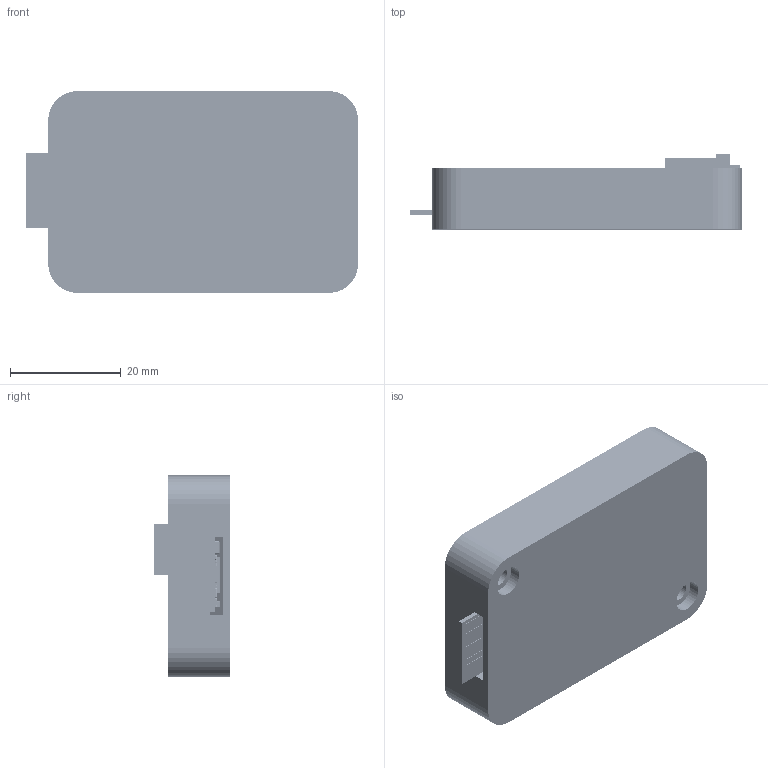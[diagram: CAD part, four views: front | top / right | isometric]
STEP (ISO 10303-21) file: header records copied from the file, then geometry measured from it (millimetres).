
FILE_DESCRIPTION(/* description */ (''),/* implementation_level */ '2;1');
FILE_NAME(/* name */ 'D:/_My Docs on T530/Matt''s Homework/Projects/GitHub/TTL-HW/STEPs/Control Module EP v16.step',/* time_stamp */ '2021-03-21T23:41:51-04:00',/* author */ (''),/* organization */ (''),/* preprocessor_version */ 'ST-DEVELOPER v18.1',/* originating_system */ 'Autodesk Translation Framework v9.10.0.1330',/* authorisation */ '');
FILE_SCHEMA (('AUTOMOTIVE_DESIGN { 1 0 10303 214 3 1 1 }'));
Products named in the file (43): Control Module EP; Control Module Hosuing EP; Base EP; Cover EP; TelTail Lights EP; PCB Component; Board; ATSAMD21G-A; 0.1uF; 32.768kHz; HM-11; 1k; RES-07859; AZ1117EH-3.3; DUAL_NFET_3.5A; JST_PH_2POS; JST_PH_4POS; JST_PH_3POS; 500mA/300V; PSMN8R5-60YS; 500mA/300V_1; LSM6DS3DOT_INDICATION; TERM_BLOCK_SPRING_2POS_5MM; PMEG2010ER; SBR10B45P5; 330; BLUE; User Library-LED_0603_G_Pocket002; User Library-LED_0603_G_Pad004; User Library-LED_0603_G_Fillet; User Library-LED_0603_G_Pocket001; User Library-LED_0603_G_Pad; USB3160-XX-XXXX-X-X_REVA; ÊäÈë1; ÇÐ³ý-À­Éì4; 47uf; 100; 080504; Lötende; CORTEX_DEBUG_PTH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
Assembly tree (103 placements, depth 5):
  Control Module EP
    Control Module Hosuing EP
      Base EP
      Cover EP
    TelTail Lights EP
      PCB Component
        Board
        ATSAMD21G-A
        0.1uF  x12
        32.768kHz
        HM-11
        1k  x3
        RES-07859  x2
        AZ1117EH-3.3
        DUAL_NFET_3.5A  x4
        JST_PH_2POS  x5
        JST_PH_4POS  x2
        JST_PH_3POS  x2
        500mA/300V
        PSMN8R5-60YS
        500mA/300V_1
        PMEG2010ER  x2
        LSM6DS3DOT_INDICATION
        TERM_BLOCK_SPRING_2POS_5MM
        SBR10B45P5
        330  x28
        BLUE  x2
          User Library-LED_0603_G_Pocket002
          User Library-LED_0603_G_Pad004
          User Library-LED_0603_G_Fillet
          User Library-LED_0603_G_Pocket001
          User Library-LED_0603_G_Pad
        USB3160-XX-XXXX-X-X_REVA
          ÊäÈë1
          ÇÐ³ý-À­Éì4
        47uf
        100
          080504
          Lötende  x2
        CORTEX_DEBUG_PTH
        STAND-OFF  x2
        TTL_LARGE
        1MM_TP  x8
Bounding box: 59.91 x 13.57 x 36.4 mm (x, y, z)
Volume: 14782.2 mm3; surface area: 21461.1 mm2
Topology: 103 solids, 105 shells, 9035 faces, 23748 edges, 15169 vertices
Faces by surface type: plane 5556, cylinder 2351, sphere 650, bspline 448, cone 30
Full cylindrical faces by diameter (mm): 0.08 x2, 0.2 x2, 0.283 x2, 0.3 x5, 0.305 x5, 0.35 x298, 0.508 x10, 0.6 x1, 0.75 x1, 0.8 x24, 0.85 x2, 1.1 x4, 1.2 x2, 2.25 x2, 2.75 x2, 3.302 x2, 3.4 x2, 5.6 x2
Entity records: 135185 total; most frequent: CARTESIAN_POINT 25315, ORIENTED_EDGE 21435, DIRECTION 21337, EDGE_CURVE 10718, LINE 7733, VECTOR 7733, AXIS2_PLACEMENT_3D 6802, VERTEX_POINT 6584
